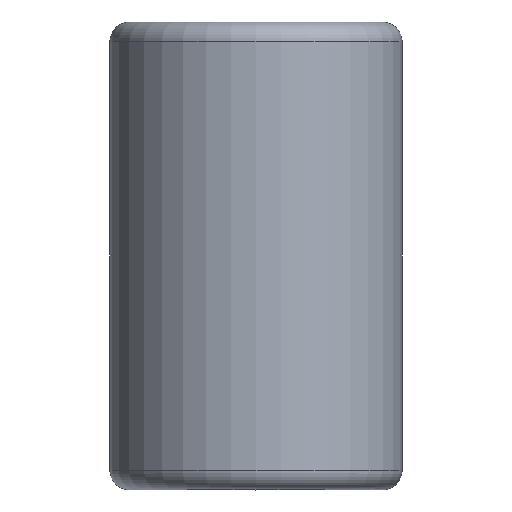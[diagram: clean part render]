
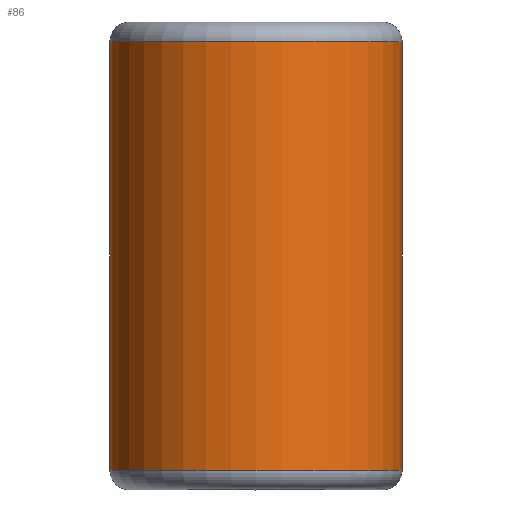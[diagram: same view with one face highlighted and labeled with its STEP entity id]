
A CAD part, top view. The second image highlights one B-rep face of the part: STEP entity #86.
In plain terms, the highlighted cylindrical face has radius 7.5 mm (diameter 15 mm), a partial arc.
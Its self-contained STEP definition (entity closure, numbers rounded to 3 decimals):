
#86=ADVANCED_FACE('',(#176),#177,.T.);
#176=FACE_OUTER_BOUND('',#274,.T.);
#177=CYLINDRICAL_SURFACE('',#275,7.5);
#274=EDGE_LOOP('',(#379,#380,#381,#382));
#275=AXIS2_PLACEMENT_3D('',#383,#384,#385);
#379=ORIENTED_EDGE('',*,*,#577,.F.);
#380=ORIENTED_EDGE('',*,*,#578,.T.);
#381=ORIENTED_EDGE('',*,*,#579,.F.);
#382=ORIENTED_EDGE('',*,*,#565,.T.);
#383=CARTESIAN_POINT('',(0.0,0.0,0.0));
#384=DIRECTION('',(0.0,-1.0,0.0));
#385=DIRECTION('',(1.0,0.0,0.0));
#565=EDGE_CURVE('',#646,#650,#652,.T.);
#577=EDGE_CURVE('',#659,#650,#672,.T.);
#578=EDGE_CURVE('',#659,#655,#673,.T.);
#579=EDGE_CURVE('',#646,#655,#674,.T.);
#646=VERTEX_POINT('',#757);
#650=VERTEX_POINT('',#761);
#652=CIRCLE('',#763,7.5);
#655=VERTEX_POINT('',#766);
#659=VERTEX_POINT('',#770);
#672=LINE('',#785,#786);
#673=CIRCLE('',#787,7.5);
#674=LINE('',#788,#789);
#757=CARTESIAN_POINT('',(-7.5,-11.001,0.));
#761=CARTESIAN_POINT('',(7.5,-11.001,0.0));
#763=AXIS2_PLACEMENT_3D('',#888,#889,#890);
#766=CARTESIAN_POINT('',(-7.5,11.001,0.));
#770=CARTESIAN_POINT('',(7.5,11.001,0.0));
#785=CARTESIAN_POINT('',(7.5,0.0,0.));
#786=VECTOR('',#911,1.0);
#787=AXIS2_PLACEMENT_3D('',#912,#913,#914);
#788=CARTESIAN_POINT('',(-7.5,0.0,0.));
#789=VECTOR('',#915,1.0);
#888=CARTESIAN_POINT('',(0.0,-11.001,0.0));
#889=DIRECTION('',(-0.0,1.0,0.0));
#890=DIRECTION('',(1.0,0.0,0.0));
#911=DIRECTION('',(0.0,-1.0,0.0));
#912=CARTESIAN_POINT('',(0.0,11.001,0.0));
#913=DIRECTION('',(0.0,-1.0,0.0));
#914=DIRECTION('',(1.0,0.0,0.0));
#915=DIRECTION('',(-0.0,1.0,-0.0));
